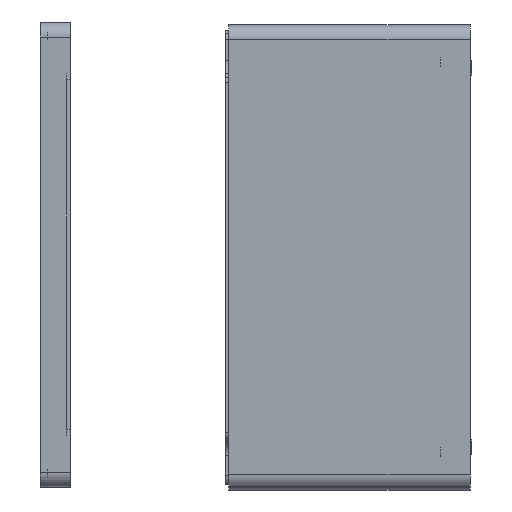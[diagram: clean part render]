
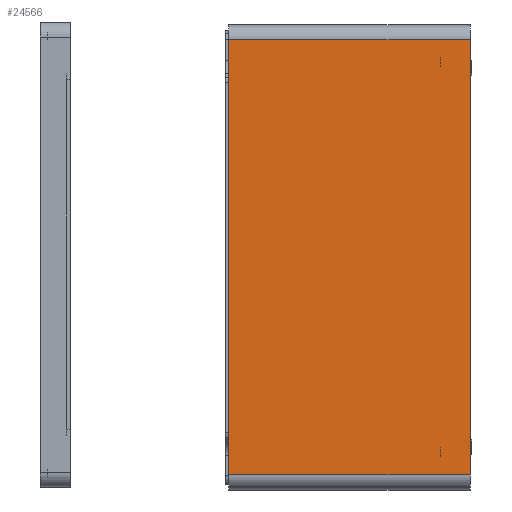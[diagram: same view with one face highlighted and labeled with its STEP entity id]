
A CAD part, left-side view. The second image highlights one B-rep face of the part: STEP entity #24566.
In plain terms, the highlighted planar face has unit normal (-1, 0, 0).
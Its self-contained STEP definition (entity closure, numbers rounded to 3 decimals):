
#109 = VECTOR ( 'NONE', #12265, 1000. ) ;
#921 = PLANE ( 'NONE',  #6902 ) ;
#1489 = FACE_OUTER_BOUND ( 'NONE', #5535, .T. ) ;
#2079 = EDGE_CURVE ( 'NONE', #26969, #9070, #8062, .T. ) ;
#4316 = EDGE_CURVE ( 'NONE', #21268, #18192, #22040, .T. ) ;
#4757 = VECTOR ( 'NONE', #28886, 1000. ) ;
#5535 = EDGE_LOOP ( 'NONE', ( #6096, #15098, #7038, #21160 ) ) ;
#5571 = LINE ( 'NONE', #23564, #109 ) ;
#5973 = VECTOR ( 'NONE', #10099, 1000. ) ;
#6096 = ORIENTED_EDGE ( 'NONE', *, *, #21992, .T. ) ;
#6902 = AXIS2_PLACEMENT_3D ( 'NONE', #28409, #14421, #17099 ) ;
#7038 = ORIENTED_EDGE ( 'NONE', *, *, #14691, .F. ) ;
#8062 = LINE ( 'NONE', #12534, #24711 ) ;
#9070 = VERTEX_POINT ( 'NONE', #23928 ) ;
#10099 = DIRECTION ( 'NONE',  ( 0., 0., 1. ) ) ;
#10720 = CARTESIAN_POINT ( 'NONE',  ( -300., 161., -145. ) ) ;
#10728 = DIRECTION ( 'NONE',  ( 0., 1., 0. ) ) ;
#12265 = DIRECTION ( 'NONE',  ( 0., 0., 1. ) ) ;
#12534 = CARTESIAN_POINT ( 'NONE',  ( -300., 161., 145. ) ) ;
#14421 = DIRECTION ( 'NONE',  ( 1., 0., 0. ) ) ;
#14691 = EDGE_CURVE ( 'NONE', #21268, #9070, #5571, .T. ) ;
#15098 = ORIENTED_EDGE ( 'NONE', *, *, #2079, .T. ) ;
#16082 = CARTESIAN_POINT ( 'NONE',  ( -300., 0., -145. ) ) ;
#16682 = LINE ( 'NONE', #26183, #5973 ) ;
#17099 = DIRECTION ( 'NONE',  ( 0., 0., -1. ) ) ;
#17372 = CARTESIAN_POINT ( 'NONE',  ( -300., 0., 145. ) ) ;
#18192 = VERTEX_POINT ( 'NONE', #16082 ) ;
#21160 = ORIENTED_EDGE ( 'NONE', *, *, #4316, .T. ) ;
#21268 = VERTEX_POINT ( 'NONE', #22659 ) ;
#21992 = EDGE_CURVE ( 'NONE', #18192, #26969, #16682, .T. ) ;
#22040 = LINE ( 'NONE', #10720, #4757 ) ;
#22659 = CARTESIAN_POINT ( 'NONE',  ( -300., 161., -145. ) ) ;
#23564 = CARTESIAN_POINT ( 'NONE',  ( -300., 161., -155. ) ) ;
#23928 = CARTESIAN_POINT ( 'NONE',  ( -300., 161., 145. ) ) ;
#24566 = ADVANCED_FACE ( 'NONE', ( #1489 ), #921, .F. ) ;
#24711 = VECTOR ( 'NONE', #10728, 1000. ) ;
#26183 = CARTESIAN_POINT ( 'NONE',  ( -300., 0., -155. ) ) ;
#26969 = VERTEX_POINT ( 'NONE', #17372 ) ;
#28409 = CARTESIAN_POINT ( 'NONE',  ( -300., 161., -155. ) ) ;
#28886 = DIRECTION ( 'NONE',  ( 0., -1., 0. ) ) ;
